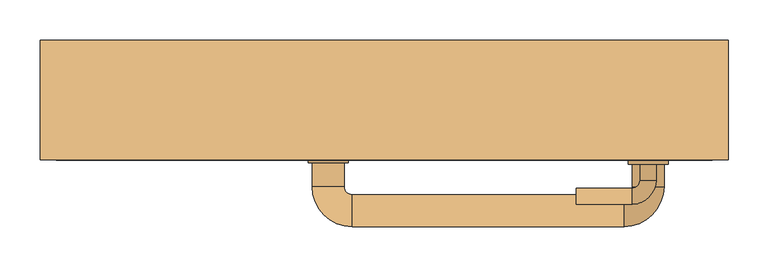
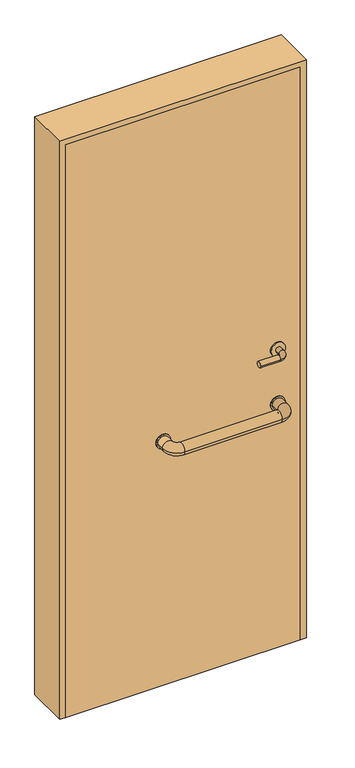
"""IFC4 building model written with IfcOpenShell, lengths in millimetres: door geometry, Porta banheiros : Porta banheiros."""

from ifc_helpers import new_model, si_unit, point, frame, frame_2d, origin, origin_with_axes, place, context, project, spatial, polyline, circle_curve, ellipse_curve, trimmed, segment, composite_curve, outline, extrude, faceted_brep, source, transform, mapped, element, save
from ifc_brep_helpers import plane_surface, cylinder_surface, revolved_surface, advanced_brep


def door_b9a7b7f6(model_context):
    return source(origin(), model_context, "Body", "SolidModel", [
        extrude(outline(composite_curve([segment(trimmed(circle_curve(frame_2d((900.0, -70.0)), 25.0), [point((900.0, -95.0))], [point((900.0, -45.0))], False, "CARTESIAN"), True, "CONTINUOUS"), segment(trimmed(circle_curve(frame_2d((900.0, -70.0)), 25.0), [point((900.0, -45.0))], [point((900.0, -95.0))], False, "CARTESIAN"), True, "CONTINUOUS")], self_intersect=False)), frame((0.0, -78.0, 0.0), z_axis=(0.0, 1.0, 0.0), x_axis=(0.0, 0.0, 1.0)), (0.0, 0.0, 1.0), 3.0),
        extrude(outline(composite_curve([segment(trimmed(circle_curve(frame_2d((900.0, 330.0)), 25.0), [point((900.0, 305.0))], [point((900.0, 355.0))], False, "CARTESIAN"), True, "CONTINUOUS"), segment(trimmed(circle_curve(frame_2d((900.0, 330.0)), 25.0), [point((900.0, 355.0))], [point((900.0, 305.0))], False, "CARTESIAN"), True, "CONTINUOUS")], self_intersect=False)), frame((0.0, -78.0, 0.0), z_axis=(0.0, 1.0, 0.0), x_axis=(0.0, 0.0, 1.0)), (0.0, 0.0, 1.0), 3.0),
        advanced_brep(
        [(310.0, -78.0, 900.0), (350.0, -78.0, 900.0), (310.0, -108.0, 900.0), (350.0, -108.0, 900.0), (300.0, -158.0, 900.0), (300.0, -118.0, 900.0), (-40.0, -118.0, 900.0), (-40.0, -158.0, 900.0), (-90.0, -108.0, 900.0), (-50.0, -108.0, 900.0), (-50.0, -78.0, 900.0), (-90.0, -78.0, 900.0)],
        [
            (0, 1, circle_curve(frame((330.0, -78.0, 900.0), z_axis=(0.0, 1.0, 0.0), x_axis=(1.0, 0.0, 0.0)), 20.0)),
            (1, 0, circle_curve(frame((330.0, -78.0, 900.0), z_axis=(0.0, 1.0, 0.0), x_axis=(1.0, 0.0, 0.0)), 20.0)),
            (0, 2),
            (2, 3, circle_curve(frame((330.0, -108.0, 900.0), z_axis=(0.0, 1.0, 0.0), x_axis=(1.0, 0.0, 0.0)), 20.0)),
            (3, 1),
            (3, 2, circle_curve(frame((330.0, -108.0, 900.0), z_axis=(0.0, 1.0, 0.0), x_axis=(1.0, 0.0, 0.0)), 20.0)),
            (4, 3, circle_curve(frame((300.0, -108.0, 900.0), z_axis=(0.0, 0.0, 1.0), x_axis=(1.0, 0.0, 0.0)), 50.0)),
            (2, 5, circle_curve(frame((300.0, -108.0, 900.0), z_axis=(0.0, 0.0, -1.0), x_axis=(1.0, 0.0, 0.0)), 10.0)),
            (5, 4, circle_curve(frame((300.0, -138.0, 900.0), z_axis=(1.0, 0.0, 0.0), x_axis=(0.0, -1.0, 0.0)), 20.0)),
            (4, 5, circle_curve(frame((300.0, -138.0, 900.0), z_axis=(1.0, 0.0, 0.0), x_axis=(0.0, -1.0, 0.0)), 20.0)),
            (5, 6),
            (6, 7, circle_curve(frame((-40.0, -138.0, 900.0), z_axis=(1.0, 0.0, 0.0), x_axis=(0.0, -1.0, 0.0)), 20.0)),
            (7, 4),
            (7, 6, circle_curve(frame((-40.0, -138.0, 900.0), z_axis=(1.0, 0.0, 0.0), x_axis=(0.0, -1.0, 0.0)), 20.0)),
            (8, 7, circle_curve(frame((-40.0, -108.0, 900.0), z_axis=(0.0, 0.0, 1.0), x_axis=(0.0, -1.0, 0.0)), 50.0)),
            (6, 9, circle_curve(frame((-40.0, -108.0, 900.0), z_axis=(0.0, 0.0, -1.0), x_axis=(0.0, -1.0, 0.0)), 10.0)),
            (9, 8, circle_curve(frame((-70.0, -108.0, 900.0), z_axis=(0.0, -1.0, 0.0), x_axis=(-1.0, 0.0, 0.0)), 20.0)),
            (8, 9, circle_curve(frame((-70.0, -108.0, 900.0), z_axis=(0.0, -1.0, 0.0), x_axis=(-1.0, 0.0, 0.0)), 20.0)),
            (10, 11, circle_curve(frame((-70.0, -78.0, 900.0), z_axis=(0.0, 1.0, 0.0), x_axis=(-1.0, 0.0, 0.0)), 20.0)),
            (11, 10, circle_curve(frame((-70.0, -78.0, 900.0), z_axis=(0.0, 1.0, 0.0), x_axis=(-1.0, 0.0, 0.0)), 20.0)),
            (9, 10),
            (11, 8),
        ],
        [
            plane_surface(frame((330.0, -78.0, 900.0), z_axis=(0.0, 1.0, 0.0), x_axis=(0.0, 0.0, 1.0))),
            cylinder_surface(frame((330.0, -78.0, 900.0), z_axis=(0.0, 1.0, 0.0), x_axis=(1.0, 0.0, 0.0)), 20.0),
            revolved_surface(trimmed(ellipse_curve(frame((330.0, -108.0, 900.0), z_axis=(0.0, 1.0, 0.0), x_axis=(1.0, 0.0, 0.0)), 20.0, 20.0), [point((310.0, -108.0, 900.0))], [point((350.0, -108.0, 900.0))], True, "CARTESIAN"), (300.0, -108.0, 900.0), (0.0, 0.0, -1.0)),
            revolved_surface(trimmed(ellipse_curve(frame((330.0, -108.0, 900.0), z_axis=(0.0, 1.0, 0.0), x_axis=(1.0, 0.0, 0.0)), 20.0, 20.0), [point((350.0, -108.0, 900.0))], [point((310.0, -108.0, 900.0))], True, "CARTESIAN"), (300.0, -108.0, 900.0), (0.0, 0.0, -1.0)),
            cylinder_surface(frame((300.0, -138.0, 900.0), z_axis=(1.0, 0.0, 0.0), x_axis=(0.0, -1.0, 0.0)), 20.0),
            revolved_surface(trimmed(ellipse_curve(frame((-40.0, -138.0, 900.0), z_axis=(1.0, 0.0, 0.0), x_axis=(0.0, -1.0, 0.0)), 20.0, 20.0), [point((-40.0, -118.0, 900.0))], [point((-40.0, -158.0, 900.0))], True, "CARTESIAN"), (-40.0, -108.0, 900.0), (0.0, 0.0, -1.0)),
            revolved_surface(trimmed(ellipse_curve(frame((-40.0, -138.0, 900.0), z_axis=(1.0, 0.0, 0.0), x_axis=(0.0, -1.0, 0.0)), 20.0, 20.0), [point((-40.0, -158.0, 900.0))], [point((-40.0, -118.0, 900.0))], True, "CARTESIAN"), (-40.0, -108.0, 900.0), (0.0, 0.0, -1.0)),
            plane_surface(frame((-70.0, -78.0, 900.0), z_axis=(0.0, 1.0, 0.0), x_axis=(0.0, 0.0, 1.0))),
            cylinder_surface(frame((-70.0, -108.0, 900.0), z_axis=(0.0, -1.0, 0.0), x_axis=(-1.0, 0.0, 0.0)), 20.0),
        ],
        [
            (0, [[1, 2]]),
            (1, [[-1, 3, 4, 5]]),
            (1, [[-2, -5, 6, -3]]),
            (2, [[7, -4, 8, 9]]),
            (3, [[-8, -6, -7, 10]]),
            (4, [[-9, 11, 12, 13]]),
            (4, [[-10, -13, 14, -11]]),
            (5, [[15, -12, 16, 17]]),
            (6, [[-16, -14, -15, 18]]),
            (7, [[19, 20]]),
            (8, [[-17, 21, -20, 22]]),
            (8, [[-18, -22, -19, -21]]),
        ],
    ),
        extrude(outline(composite_curve([segment(trimmed(circle_curve(frame_2d((900.0, -70.0)), 25.0), [point((900.0, -95.0))], [point((900.0, -45.0))], False, "CARTESIAN"), True, "CONTINUOUS"), segment(trimmed(circle_curve(frame_2d((900.0, -70.0)), 25.0), [point((900.0, -45.0))], [point((900.0, -95.0))], False, "CARTESIAN"), True, "CONTINUOUS")], self_intersect=False)), frame((0.0, -45.0, 0.0), z_axis=(0.0, 1.0, 0.0), x_axis=(0.0, 0.0, 1.0)), (0.0, 0.0, 1.0), 3.0),
        extrude(outline(composite_curve([segment(trimmed(circle_curve(frame_2d((900.0, 330.0)), 25.0), [point((900.0, 305.0))], [point((900.0, 355.0))], False, "CARTESIAN"), True, "CONTINUOUS"), segment(trimmed(circle_curve(frame_2d((900.0, 330.0)), 25.0), [point((900.0, 355.0))], [point((900.0, 305.0))], False, "CARTESIAN"), True, "CONTINUOUS")], self_intersect=False)), frame((0.0, -45.0, 0.0), z_axis=(0.0, 1.0, 0.0), x_axis=(0.0, 0.0, 1.0)), (0.0, 0.0, 1.0), 3.0),
        advanced_brep(
        [(310.0, -42.0, 900.0), (350.0, -42.0, 900.0), (350.0, -12.0, 900.0), (310.0, -12.0, 900.0), (300.0, 38.0, 900.0), (300.0, -2.0, 900.0), (-40.0, 38.0, 900.0), (-40.0, -2.0, 900.0), (-90.0, -12.0, 900.0), (-50.0, -12.0, 900.0), (-50.0, -42.0, 900.0), (-90.0, -42.0, 900.0)],
        [
            (0, 1, circle_curve(frame((330.0, -42.0, 900.0), z_axis=(0.0, -1.0, 0.0), x_axis=(1.0, 0.0, 0.0)), 20.0)),
            (1, 0, circle_curve(frame((330.0, -42.0, 900.0), z_axis=(0.0, -1.0, 0.0), x_axis=(1.0, 0.0, 0.0)), 20.0)),
            (1, 2),
            (2, 3, circle_curve(frame((330.0, -12.0, 900.0), z_axis=(0.0, -1.0, 0.0), x_axis=(1.0, 0.0, 0.0)), 20.0)),
            (3, 0),
            (3, 2, circle_curve(frame((330.0, -12.0, 900.0), z_axis=(0.0, -1.0, 0.0), x_axis=(1.0, 0.0, 0.0)), 20.0)),
            (4, 5, circle_curve(frame((300.0, 18.0, 900.0), z_axis=(1.0, 0.0, 0.0), x_axis=(0.0, 1.0, 0.0)), 20.0)),
            (5, 3, circle_curve(frame((300.0, -12.0, 900.0), z_axis=(0.0, 0.0, -1.0), x_axis=(1.0, 0.0, 0.0)), 10.0)),
            (2, 4, circle_curve(frame((300.0, -12.0, 900.0), z_axis=(0.0, 0.0, 1.0), x_axis=(1.0, 0.0, 0.0)), 50.0)),
            (5, 4, circle_curve(frame((300.0, 18.0, 900.0), z_axis=(1.0, 0.0, 0.0), x_axis=(0.0, 1.0, 0.0)), 20.0)),
            (4, 6),
            (6, 7, circle_curve(frame((-40.0, 18.0, 900.0), z_axis=(1.0, 0.0, 0.0), x_axis=(0.0, 1.0, 0.0)), 20.0)),
            (7, 5),
            (7, 6, circle_curve(frame((-40.0, 18.0, 900.0), z_axis=(1.0, 0.0, 0.0), x_axis=(0.0, 1.0, 0.0)), 20.0)),
            (8, 9, circle_curve(frame((-70.0, -12.0, 900.0), z_axis=(0.0, 1.0, 0.0), x_axis=(-1.0, 0.0, 0.0)), 20.0)),
            (9, 7, circle_curve(frame((-40.0, -12.0, 900.0), z_axis=(0.0, 0.0, -1.0), x_axis=(0.0, 1.0, 0.0)), 10.0)),
            (6, 8, circle_curve(frame((-40.0, -12.0, 900.0), z_axis=(0.0, 0.0, 1.0), x_axis=(0.0, 1.0, 0.0)), 50.0)),
            (9, 8, circle_curve(frame((-70.0, -12.0, 900.0), z_axis=(0.0, 1.0, 0.0), x_axis=(-1.0, 0.0, 0.0)), 20.0)),
            (10, 11, circle_curve(frame((-70.0, -42.0, 900.0), z_axis=(0.0, -1.0, 0.0), x_axis=(-1.0, 0.0, 0.0)), 20.0)),
            (11, 10, circle_curve(frame((-70.0, -42.0, 900.0), z_axis=(0.0, -1.0, 0.0), x_axis=(-1.0, 0.0, 0.0)), 20.0)),
            (8, 11),
            (10, 9),
        ],
        [
            plane_surface(frame((330.0, -42.0, 900.0), z_axis=(0.0, -1.0, 0.0), x_axis=(0.0, 0.0, 1.0))),
            cylinder_surface(frame((330.0, -42.0, 900.0), z_axis=(0.0, -1.0, 0.0), x_axis=(1.0, 0.0, 0.0)), 20.0),
            revolved_surface(trimmed(ellipse_curve(frame((330.0, -12.0, 900.0), z_axis=(0.0, 1.0, 0.0), x_axis=(1.0, 0.0, 0.0)), 20.0, 20.0), [point((310.0, -12.0, 900.0))], [point((350.0, -12.0, 900.0))], True, "CARTESIAN"), (300.0, -12.0, 900.0), (0.0, 0.0, -1.0)),
            revolved_surface(trimmed(ellipse_curve(frame((330.0, -12.0, 900.0), z_axis=(0.0, 1.0, 0.0), x_axis=(1.0, 0.0, 0.0)), 20.0, 20.0), [point((350.0, -12.0, 900.0))], [point((310.0, -12.0, 900.0))], True, "CARTESIAN"), (300.0, -12.0, 900.0), (0.0, 0.0, -1.0)),
            cylinder_surface(frame((300.0, 18.0, 900.0), z_axis=(1.0, 0.0, 0.0), x_axis=(0.0, 1.0, 0.0)), 20.0),
            revolved_surface(trimmed(ellipse_curve(frame((-40.0, 18.0, 900.0), z_axis=(-1.0, 0.0, 0.0), x_axis=(0.0, 1.0, 0.0)), 20.0, 20.0), [point((-40.0, -2.0, 900.0))], [point((-40.0, 38.0, 900.0))], True, "CARTESIAN"), (-40.0, -12.0, 900.0), (0.0, 0.0, -1.0)),
            revolved_surface(trimmed(ellipse_curve(frame((-40.0, 18.0, 900.0), z_axis=(-1.0, 0.0, 0.0), x_axis=(0.0, 1.0, 0.0)), 20.0, 20.0), [point((-40.0, 38.0, 900.0))], [point((-40.0, -2.0, 900.0))], True, "CARTESIAN"), (-40.0, -12.0, 900.0), (0.0, 0.0, -1.0)),
            plane_surface(frame((-70.0, -42.0, 900.0), z_axis=(0.0, -1.0, 0.0), x_axis=(0.0, 0.0, 1.0))),
            cylinder_surface(frame((-70.0, -12.0, 900.0), z_axis=(0.0, 1.0, 0.0), x_axis=(-1.0, 0.0, 0.0)), 20.0),
        ],
        [
            (0, [[1, 2]]),
            (1, [[3, 4, 5, -2]]),
            (1, [[-5, 6, -3, -1]]),
            (2, [[7, 8, -4, 9]]),
            (3, [[10, -9, -6, -8]]),
            (4, [[11, 12, 13, -7]]),
            (4, [[-13, 14, -11, -10]]),
            (5, [[15, 16, -12, 17]]),
            (6, [[18, -17, -14, -16]]),
            (7, [[19, 20]]),
            (8, [[21, -19, 22, -15]]),
            (8, [[-22, -20, -21, -18]]),
        ],
    ),
        extrude(outline(composite_curve([segment(trimmed(circle_curve(frame_2d((1100.0, 330.0)), 25.0), [point((1100.0, 305.0))], [point((1100.0, 355.0))], False, "CARTESIAN"), True, "CONTINUOUS"), segment(trimmed(circle_curve(frame_2d((1100.0, 330.0)), 25.0), [point((1100.0, 355.0))], [point((1100.0, 305.0))], False, "CARTESIAN"), True, "CONTINUOUS")], self_intersect=False)), frame((0.0, -80.0, 0.0), z_axis=(0.0, 1.0, 0.0), x_axis=(0.0, 0.0, 1.0)), (0.0, 0.0, 1.0), 5.0),
        advanced_brep(
        [(320.0, -80.0, 1100.0), (340.0, -80.0, 1100.0), (320.0, -100.0, 1100.0), (340.0, -100.0, 1100.0), (310.0, -130.0, 1100.0), (310.0, -110.0, 1100.0), (240.0, -110.0, 1100.0), (240.0, -130.0, 1100.0)],
        [
            (0, 1, circle_curve(frame((330.0, -80.0, 1100.0), z_axis=(0.0, 1.0, 0.0), x_axis=(1.0, 0.0, 0.0)), 10.0)),
            (1, 0, circle_curve(frame((330.0, -80.0, 1100.0), z_axis=(0.0, 1.0, 0.0), x_axis=(1.0, 0.0, 0.0)), 10.0)),
            (0, 2),
            (2, 3, circle_curve(frame((330.0, -100.0, 1100.0), z_axis=(0.0, 1.0, 0.0), x_axis=(1.0, 0.0, 0.0)), 10.0)),
            (3, 1),
            (3, 2, circle_curve(frame((330.0, -100.0, 1100.0), z_axis=(0.0, 1.0, 0.0), x_axis=(1.0, 0.0, 0.0)), 10.0)),
            (4, 3, circle_curve(frame((310.0, -100.0, 1100.0), z_axis=(0.0, 0.0, 1.0), x_axis=(1.0, 0.0, 0.0)), 30.0)),
            (2, 5, circle_curve(frame((310.0, -100.0, 1100.0), z_axis=(0.0, 0.0, -1.0), x_axis=(1.0, 0.0, 0.0)), 10.0)),
            (5, 4, circle_curve(frame((310.0, -120.0, 1100.0), z_axis=(1.0, 0.0, 0.0), x_axis=(0.0, -1.0, 0.0)), 10.0)),
            (4, 5, circle_curve(frame((310.0, -120.0, 1100.0), z_axis=(1.0, 0.0, 0.0), x_axis=(0.0, -1.0, 0.0)), 10.0)),
            (6, 7, circle_curve(frame((240.0, -120.0, 1100.0), z_axis=(-1.0, 0.0, 0.0), x_axis=(0.0, -1.0, 0.0)), 10.0)),
            (7, 6, circle_curve(frame((240.0, -120.0, 1100.0), z_axis=(-1.0, 0.0, 0.0), x_axis=(0.0, -1.0, 0.0)), 10.0)),
            (5, 6),
            (7, 4),
        ],
        [
            plane_surface(frame((330.0, -80.0, 1100.0), z_axis=(0.0, 1.0, 0.0), x_axis=(0.0, 0.0, 1.0))),
            cylinder_surface(frame((330.0, -80.0, 1100.0), z_axis=(0.0, 1.0, 0.0), x_axis=(1.0, 0.0, 0.0)), 10.0),
            revolved_surface(trimmed(ellipse_curve(frame((330.0, -100.0, 1100.0), z_axis=(0.0, 1.0, 0.0), x_axis=(1.0, 0.0, 0.0)), 10.0, 10.0), [point((320.0, -100.0, 1100.0))], [point((340.0, -100.0, 1100.0))], True, "CARTESIAN"), (310.0, -100.0, 1100.0), (0.0, 0.0, -1.0)),
            revolved_surface(trimmed(ellipse_curve(frame((330.0, -100.0, 1100.0), z_axis=(0.0, 1.0, 0.0), x_axis=(1.0, 0.0, 0.0)), 10.0, 10.0), [point((340.0, -100.0, 1100.0))], [point((320.0, -100.0, 1100.0))], True, "CARTESIAN"), (310.0, -100.0, 1100.0), (0.0, 0.0, -1.0)),
            plane_surface(frame((240.0, -120.0, 1100.0), z_axis=(-1.0, 0.0, 0.0), x_axis=(0.0, 0.0, 1.0))),
            cylinder_surface(frame((310.0, -120.0, 1100.0), z_axis=(1.0, 0.0, 0.0), x_axis=(0.0, -1.0, 0.0)), 10.0),
        ],
        [
            (0, [[1, 2]]),
            (1, [[-1, 3, 4, 5]]),
            (1, [[-2, -5, 6, -3]]),
            (2, [[7, -4, 8, 9]]),
            (3, [[-8, -6, -7, 10]]),
            (4, [[11, 12]]),
            (5, [[-9, 13, -12, 14]]),
            (5, [[-10, -14, -11, -13]]),
        ],
    ),
        extrude(outline(composite_curve([segment(trimmed(circle_curve(frame_2d((1100.0, 330.0)), 25.0), [point((1100.0, 305.0))], [point((1100.0, 355.0))], False, "CARTESIAN"), True, "CONTINUOUS"), segment(trimmed(circle_curve(frame_2d((1100.0, 330.0)), 25.0), [point((1100.0, 355.0))], [point((1100.0, 305.0))], False, "CARTESIAN"), True, "CONTINUOUS")], self_intersect=False)), frame((0.0, -45.0, 0.0), z_axis=(0.0, 1.0, 0.0), x_axis=(0.0, 0.0, 1.0)), (0.0, 0.0, 1.0), 5.0),
        advanced_brep(
        [(320.0, -40.0, 1100.0), (340.0, -40.0, 1100.0), (340.0, -20.0, 1100.0), (320.0, -20.0, 1100.0), (310.0, 10.0, 1100.0), (310.0, -10.0, 1100.0), (240.0, -10.0, 1100.0), (240.0, 10.0, 1100.0)],
        [
            (0, 1, circle_curve(frame((330.0, -40.0, 1100.0), z_axis=(0.0, -1.0, 0.0), x_axis=(1.0, 0.0, 0.0)), 10.0)),
            (1, 0, circle_curve(frame((330.0, -40.0, 1100.0), z_axis=(0.0, -1.0, 0.0), x_axis=(1.0, 0.0, 0.0)), 10.0)),
            (1, 2),
            (2, 3, circle_curve(frame((330.0, -20.0, 1100.0), z_axis=(0.0, -1.0, 0.0), x_axis=(1.0, 0.0, 0.0)), 10.0)),
            (3, 0),
            (3, 2, circle_curve(frame((330.0, -20.0, 1100.0), z_axis=(0.0, -1.0, 0.0), x_axis=(1.0, 0.0, 0.0)), 10.0)),
            (4, 5, circle_curve(frame((310.0, 0.0, 1100.0), z_axis=(1.0, 0.0, 0.0), x_axis=(0.0, 1.0, 0.0)), 10.0)),
            (5, 3, circle_curve(frame((310.0, -20.0, 1100.0), z_axis=(0.0, 0.0, -1.0), x_axis=(1.0, 0.0, 0.0)), 10.0)),
            (2, 4, circle_curve(frame((310.0, -20.0, 1100.0), z_axis=(0.0, 0.0, 1.0), x_axis=(1.0, 0.0, 0.0)), 30.0)),
            (5, 4, circle_curve(frame((310.0, 0.0, 1100.0), z_axis=(1.0, 0.0, 0.0), x_axis=(0.0, 1.0, 0.0)), 10.0)),
            (6, 7, circle_curve(frame((240.0, 0.0, 1100.0), z_axis=(-1.0, 0.0, 0.0), x_axis=(0.0, 1.0, 0.0)), 10.0)),
            (7, 6, circle_curve(frame((240.0, 0.0, 1100.0), z_axis=(-1.0, 0.0, 0.0), x_axis=(0.0, 1.0, 0.0)), 10.0)),
            (4, 7),
            (6, 5),
        ],
        [
            plane_surface(frame((330.0, -40.0, 1100.0), z_axis=(0.0, -1.0, 0.0), x_axis=(0.0, 0.0, 1.0))),
            cylinder_surface(frame((330.0, -40.0, 1100.0), z_axis=(0.0, -1.0, 0.0), x_axis=(1.0, 0.0, 0.0)), 10.0),
            revolved_surface(trimmed(ellipse_curve(frame((330.0, -20.0, 1100.0), z_axis=(0.0, 1.0, 0.0), x_axis=(1.0, 0.0, 0.0)), 10.0, 10.0), [point((320.0, -20.0, 1100.0))], [point((340.0, -20.0, 1100.0))], True, "CARTESIAN"), (310.0, -20.0, 1100.0), (0.0, 0.0, -1.0)),
            revolved_surface(trimmed(ellipse_curve(frame((330.0, -20.0, 1100.0), z_axis=(0.0, 1.0, 0.0), x_axis=(1.0, 0.0, 0.0)), 10.0, 10.0), [point((340.0, -20.0, 1100.0))], [point((320.0, -20.0, 1100.0))], True, "CARTESIAN"), (310.0, -20.0, 1100.0), (0.0, 0.0, -1.0)),
            plane_surface(frame((240.0, 0.0, 1100.0), z_axis=(-1.0, 0.0, 0.0), x_axis=(0.0, 0.0, 1.0))),
            cylinder_surface(frame((310.0, 0.0, 1100.0), z_axis=(1.0, 0.0, 0.0), x_axis=(0.0, 1.0, 0.0)), 10.0),
        ],
        [
            (0, [[1, 2]]),
            (1, [[3, 4, 5, -2]]),
            (1, [[-5, 6, -3, -1]]),
            (2, [[7, 8, -4, 9]]),
            (3, [[10, -9, -6, -8]]),
            (4, [[11, 12]]),
            (5, [[13, -11, 14, -7]]),
            (5, [[-14, -12, -13, -10]]),
        ],
    ),
        faceted_brep([(-430.0, 75.0, 0.0), (-400.0, 75.0, 0.0), (-400.0, -45.0, 0.0), (-410.0, -45.0, 0.0), (-410.0, -75.0, 0.0), (-430.0, -75.0, 0.0), (-430.0, 75.0, 2130.0), (430.0, 75.0, 2130.0), (430.0, 75.0, 0.0), (400.0, 75.0, 0.0), (400.0, 75.0, 2100.0), (-400.0, 75.0, 2100.0), (-400.0, -45.0, 2100.0), (400.0, -45.0, 2100.0), (400.0, -45.0, 0.0), (410.0, -45.0, 0.0), (410.0, -45.0, 2110.0), (-410.0, -45.0, 2110.0), (-410.0, -75.0, 2110.0), (410.0, -75.0, 2110.0), (410.0, -75.0, 0.0), (430.0, -75.0, 0.0), (430.0, -75.0, 2130.0), (-430.0, -75.0, 2130.0)], [[[0, 1, 2, 3, 4, 5]], [[1, 0, 6, 7, 8, 9, 10, 11]], [[2, 1, 11, 12]], [[3, 2, 12, 13, 14, 15, 16, 17]], [[4, 3, 17, 18]], [[5, 4, 18, 19, 20, 21, 22, 23]], [[0, 5, 23, 6]], [[13, 10, 9, 14]], [[8, 21, 20, 15, 14, 9]], [[19, 16, 15, 20]], [[7, 22, 21, 8]], [[12, 11, 10, 13]], [[18, 17, 16, 19]], [[6, 23, 22, 7]]]),
        extrude(outline(polyline([(410.0, -75.0), (-410.0, -75.0), (-410.0, -45.0), (410.0, -45.0), (410.0, -75.0)])), origin_with_axes(), (0.0, 0.0, 1.0), 2110.0),
        extrude(outline(polyline([(150.0, -42.0), (300.0, -42.0), (300.0, -45.0), (150.0, -45.0), (150.0, -42.0)])), frame((0.0, 0.0, 1550.0), z_axis=(0.0, 0.0, 1.0), x_axis=(1.0, 0.0, 0.0)), (0.0, 0.0, 1.0), 550.0),
    ])


if __name__ == "__main__":
    model = new_model("IFC4")
    model_context = context("Model", 3, world=origin())
    ifc_project = project(units=[si_unit("LENGTHUNIT", "METRE", prefix="MILLI")], contexts=[model_context])
    site = spatial("IfcSite", under=ifc_project)
    building = spatial("IfcBuilding", under=site)
    placement = place(None, origin())
    door_shape = door_b9a7b7f6(model_context)
    element("IfcDoor", 1, ObjectType="Porta banheiros : Porta banheiros", at=placement, inside=building, context=model_context, shape_type="MappedRepresentation", body=[
        mapped(door_shape, transform((0.0, 0.0, 0.0), x_axis=(1.0, 0.0, 0.0), y_axis=(0.0, 1.0, 0.0), z_axis=(0.0, 0.0, 1.0))),
    ])
    save(model, "model.ifc")
